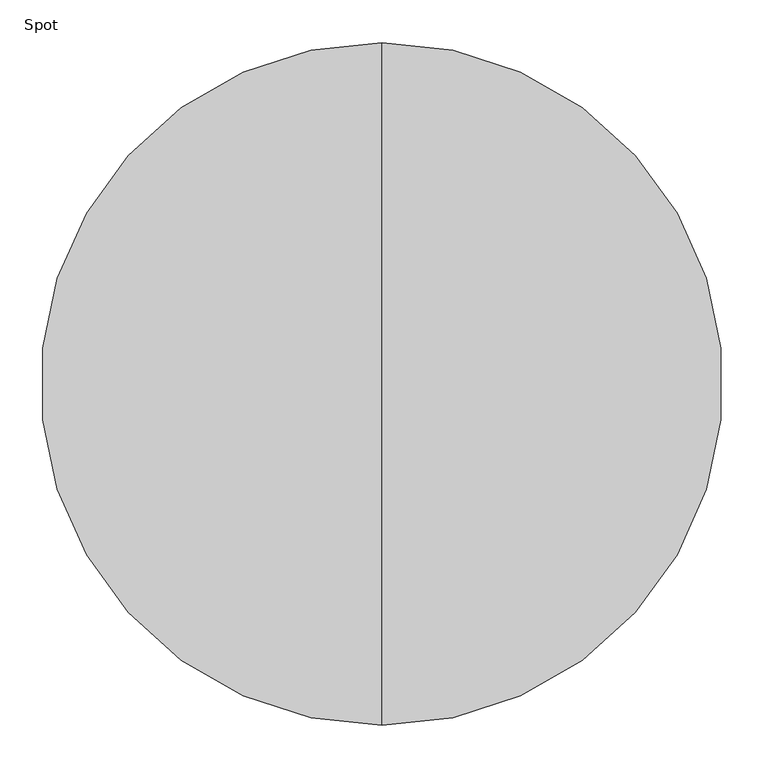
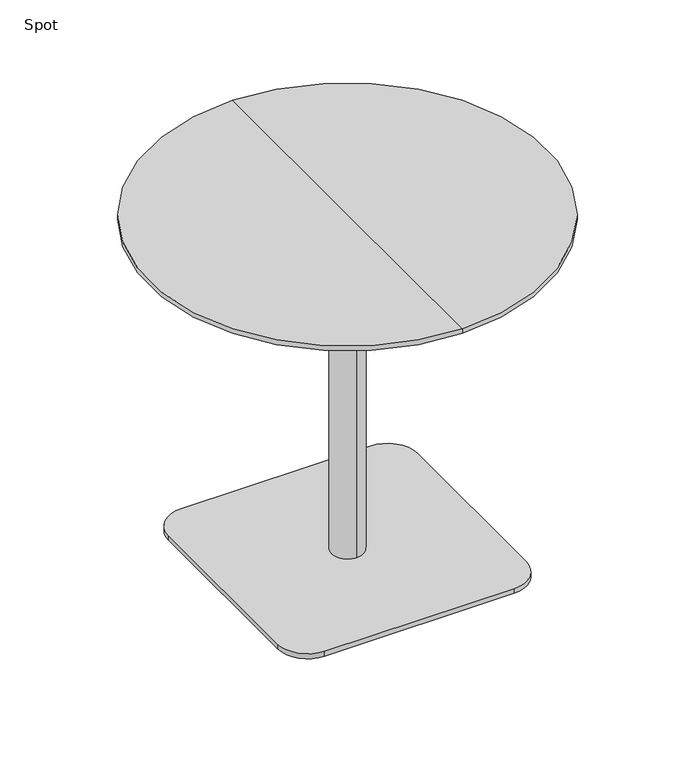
"""IFC4 building model written with IfcOpenShell, lengths in millimetres: furniture geometry, Spot : Bø80x72s."""

from ifc_helpers import new_model, si_unit, point, frame, frame_2d, origin, origin_with_axes, place, context, project, spatial, polyline, circle_curve, trimmed, segment, composite_curve, outline, extrude, source, transform, mapped, element, save
from ifc_brep_helpers import plane_surface, cylinder_surface, revolved_surface, advanced_brep


def spot_ee4e0567(model_context):
    return source(origin(), model_context, "Body", "SolidModel", [
        advanced_brep(
        [(0.0, -400.0, 720.0), (0.0, 400.0, 720.0), (0.0, 0.0, 720.0), (0.0, 400.0, 710.25), (0.0, -400.0, 710.25), (0.0, 0.0, 698.0), (0.0, -354.2823776, 698.0), (0.0, 354.2823776, 698.0)],
        [
            (0, 1, circle_curve(frame((0.0, 0.0, 720.0), z_axis=(0.0, 0.0, 1.0), x_axis=(0.0, -1.0, 0.0)), 400.0)),
            (1, 2),
            (2, 0),
            (3, 4, circle_curve(frame((0.0, 0.0, 710.25), z_axis=(0.0, 0.0, 1.0), x_axis=(0.0, -1.0, 0.0)), 400.0)),
            (4, 0),
            (0, 1, circle_curve(frame((0.0, 0.0, 720.0), z_axis=(0.0, 0.0, -1.0), x_axis=(0.0, -1.0, 0.0)), 400.0)),
            (1, 3),
            (5, 6),
            (6, 7, circle_curve(frame((0.0, 0.0, 698.0), z_axis=(0.0, 0.0, -1.0), x_axis=(0.0, -1.0, 0.0)), 354.2823776)),
            (7, 5),
            (7, 6, circle_curve(frame((0.0, 0.0, 698.0), z_axis=(0.0, 0.0, -1.0), x_axis=(0.0, -1.0, 0.0)), 354.2823776)),
            (4, 3, circle_curve(frame((0.0, 0.0, 710.25), z_axis=(0.0, 0.0, 1.0), x_axis=(0.0, -1.0, 0.0)), 400.0)),
            (6, 4),
            (3, 7),
        ],
        [
            plane_surface(frame((0.0, 0.0, 720.0), z_axis=(0.0, 0.0, 1.0), x_axis=(0.0, -1.0, 0.0))),
            cylinder_surface(frame((0.0, 0.0, 800.0), z_axis=(0.0, 0.0, -1.0), x_axis=(0.0, -1.0, 0.0)), 400.0),
            plane_surface(frame((0.0, 0.0, 698.0), z_axis=(0.0, 0.0, -1.0), x_axis=(0.0, -1.0, 0.0))),
            revolved_surface(polyline([(0.0, -400.0, 710.25), (0.0, -354.2823776, 698.0)]), (0.0, 0.0, 800.0), (0.0, 0.0, -1.0)),
        ],
        [
            (0, [[1, 2, 3]]),
            (1, [[4, 5, 6, 7]]),
            (2, [[8, 9, 10]]),
            (2, [[-10, 11, -8]]),
            (0, [[-6, -3, -2]]),
            (1, [[12, -7, -1, -5]]),
            (3, [[-9, 13, -4, 14]]),
            (3, [[-11, -14, -12, -13]]),
        ],
    ),
        extrude(outline(composite_curve([segment(trimmed(circle_curve(frame_2d((190.0, 190.0)), 60.0), [point((190.0, 250.0))], [point((250.0, 190.0))], False, "CARTESIAN"), True, "CONTINUOUS"), segment(polyline([(250.0, 190.0), (250.0, -190.0)]), True, "CONTINUOUS"), segment(trimmed(circle_curve(frame_2d((190.0, -190.0)), 60.0), [point((250.0, -190.0))], [point((190.0, -250.0))], False, "CARTESIAN"), True, "CONTINUOUS"), segment(polyline([(190.0, -250.0), (-190.0, -250.0)]), True, "CONTINUOUS"), segment(trimmed(circle_curve(frame_2d((-190.0, -190.0)), 60.0), [point((-190.0, -250.0))], [point((-250.0, -190.0))], False, "CARTESIAN"), True, "CONTINUOUS"), segment(polyline([(-250.0, -190.0), (-250.0, 190.0)]), True, "CONTINUOUS"), segment(trimmed(circle_curve(frame_2d((-190.0, 190.0)), 60.0), [point((-250.0, 190.0))], [point((-190.0, 250.0))], False, "CARTESIAN"), True, "CONTINUOUS"), segment(polyline([(-190.0, 250.0), (190.0, 250.0)]), True, "CONTINUOUS")], self_intersect=False)), origin_with_axes(), (0.0, 0.0, 1.0), 10.0),
        advanced_brep(
        [(0.0, 32.0, 10.0), (0.0, -32.0, 10.0), (0.0, -32.0, 667.406916), (0.0, 32.0, 667.406916), (0.0, 0.0, 10.0), (0.0, 150.0, 698.0), (0.0, -150.0, 698.0), (0.0, 0.0, 698.0), (0.0, 150.0, 686.7213673), (0.0, -150.0, 686.7213673)],
        [
            (0, 1, circle_curve(frame((0.0, 0.0, 10.0), z_axis=(0.0, 0.0, 1.0), x_axis=(0.0, -1.0, 0.0)), 32.0)),
            (1, 2),
            (2, 3, circle_curve(frame((0.0, 0.0, 667.406916), z_axis=(0.0, 0.0, -1.0), x_axis=(0.0, -1.0, 0.0)), 32.0)),
            (3, 0),
            (1, 0, circle_curve(frame((0.0, 0.0, 10.0), z_axis=(0.0, 0.0, 1.0), x_axis=(0.0, -1.0, 0.0)), 32.0)),
            (3, 2, circle_curve(frame((0.0, 0.0, 667.406916), z_axis=(0.0, 0.0, -1.0), x_axis=(0.0, -1.0, 0.0)), 32.0)),
            (4, 1),
            (0, 4),
            (5, 6, circle_curve(frame((0.0, 0.0, 698.0), z_axis=(0.0, 0.0, 1.0), x_axis=(0.0, -1.0, 0.0)), 150.0)),
            (6, 7),
            (7, 5),
            (6, 5, circle_curve(frame((0.0, 0.0, 698.0), z_axis=(0.0, 0.0, 1.0), x_axis=(0.0, -1.0, 0.0)), 150.0)),
            (8, 9, circle_curve(frame((0.0, 0.0, 686.7213673), z_axis=(0.0, 0.0, 1.0), x_axis=(0.0, -1.0, 0.0)), 150.0)),
            (9, 6),
            (5, 8),
            (9, 8, circle_curve(frame((0.0, 0.0, 686.7213673), z_axis=(0.0, 0.0, 1.0), x_axis=(0.0, -1.0, 0.0)), 150.0)),
            (2, 9),
            (8, 3),
        ],
        [
            cylinder_surface(frame((0.0, 0.0, 1060.0), z_axis=(0.0, 0.0, -1.0), x_axis=(0.0, -1.0, 0.0)), 32.0),
            plane_surface(frame((0.0, 0.0, 10.0), z_axis=(0.0, 0.0, -1.0), x_axis=(0.0, -1.0, 0.0))),
            plane_surface(frame((0.0, 0.0, 698.0), z_axis=(0.0, 0.0, 1.0), x_axis=(0.0, -1.0, 0.0))),
            cylinder_surface(frame((0.0, 0.0, 1060.0), z_axis=(0.0, 0.0, -1.0), x_axis=(0.0, -1.0, 0.0)), 150.0),
            revolved_surface(polyline([(0.0, -150.0, 686.7213673), (0.0, -32.0, 667.406916)]), (0.0, 0.0, 1060.0), (0.0, 0.0, -1.0)),
        ],
        [
            (0, [[1, 2, 3, 4]]),
            (0, [[5, -4, 6, -2]]),
            (1, [[7, -1, 8]]),
            (1, [[-8, -5, -7]]),
            (2, [[9, 10, 11]]),
            (2, [[12, -11, -10]]),
            (3, [[13, 14, -9, 15]]),
            (3, [[16, -15, -12, -14]]),
            (4, [[-3, 17, -13, 18]]),
            (4, [[-6, -18, -16, -17]]),
        ],
    ),
        extrude(outline(polyline([(0.0, 0.0), (-20.0, 0.0), (-20.0, 20.0), (0.0, 20.0), (0.0, 0.0)])), origin_with_axes(), (0.0, 0.0, 1.0), 10.0),
    ])


if __name__ == "__main__":
    model = new_model("IFC4")
    model_context = context("Model", 3, world=origin())
    ifc_project = project(units=[si_unit("LENGTHUNIT", "METRE", prefix="MILLI")], contexts=[model_context])
    site = spatial("IfcSite", under=ifc_project)
    building = spatial("IfcBuilding", under=site)
    placement = place(None, origin())
    spot_shape = spot_ee4e0567(model_context)
    element("IfcFurniture", 1, ObjectType="Spot : Bø80x72s", at=placement, inside=building, context=model_context, shape_type="MappedRepresentation", body=[
        mapped(spot_shape, transform((0.0, 0.0, 0.0), x_axis=(1.0, 0.0, 0.0), y_axis=(0.0, 1.0, 0.0), z_axis=(0.0, 0.0, 1.0))),
    ])
    save(model, "model.ifc")
